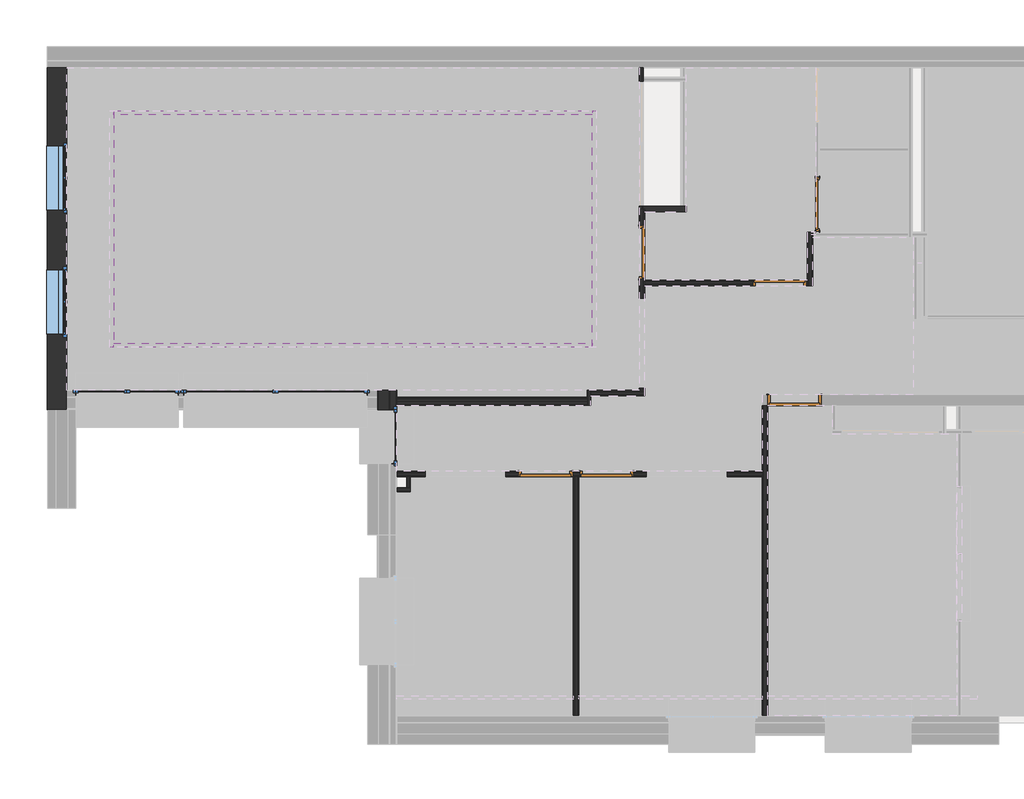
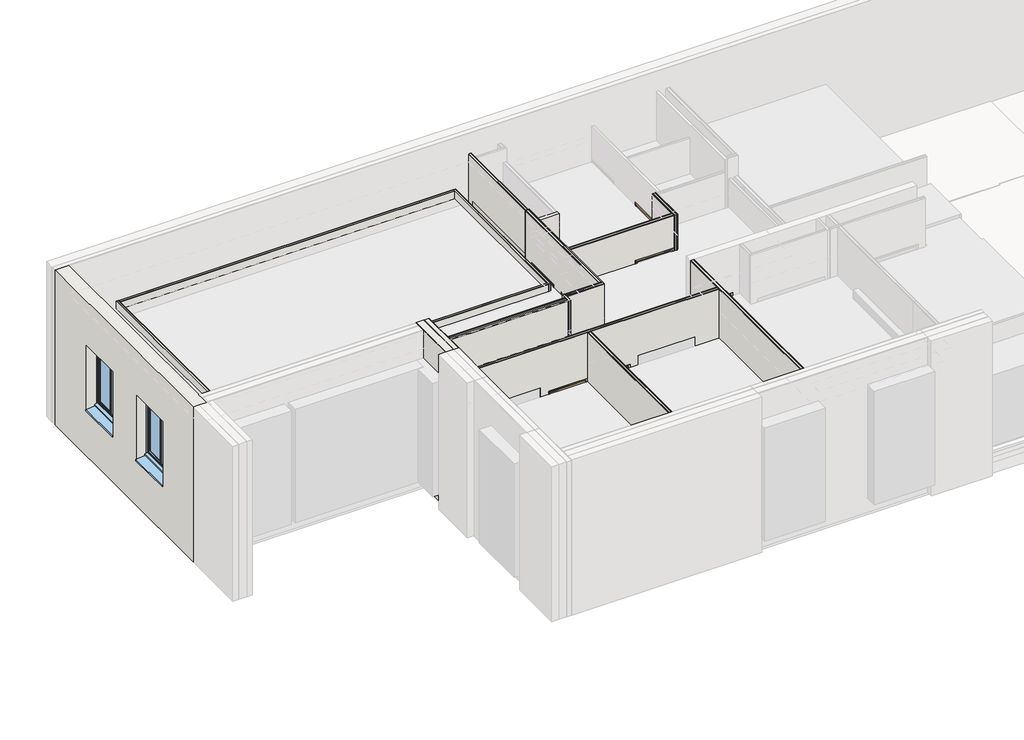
# One storey, part 2 of 8: 19 walls, 6 doors, 5 windows.
"""IFC4 building model written with IfcOpenShell, lengths in millimetres."""

from ifc_helpers import new_model, si_unit, frame, origin, origin_with_axes, place, context, project, spatial, polyline, outline, extrude, faceted_brep, transform, mapped, element, save
from components import door_440ebcd5, door_922e83f1, door_a5923646, door_3187a77a, window_a5bdb8dc, window_71aed64f, window_7f9bbf53, window_433253bf

model = new_model("IFC4")

# Units and contexts
model_context = context("Model", 3, world=origin())
ifc_project = project(units=[si_unit("LENGTHUNIT", "METRE", prefix="MILLI")], contexts=[model_context])

# Site, building, storey
site = spatial("IfcSite", under=ifc_project)
building = spatial("IfcBuilding", under=site)
storey = spatial("IfcBuildingStorey", under=building, Name="0 Mairie RDC 0.00", Elevation=0.0)

# Doors
placement = place(None, origin())
door_shape = door_440ebcd5(model_context)
element("IfcDoor", 1, ObjectType="Portes - Int. Simple - PP (0.89m x 2.04m)", at=placement, inside=storey, context=model_context, shape_type="MappedRepresentation", body=[
    mapped(door_shape, transform((-16975.446161, -8232.7637435, 0.0), x_axis=(1.0, 0.0, 0.0), y_axis=(0.0, 1.0, 0.0), z_axis=(0.0, 0.0, 1.0))),
])
door_2_shape = door_922e83f1(model_context)
element("IfcDoor", 2, ObjectType="Portes - Int. Simple - PP (0.89m x 2.04m) (1)", at=placement, inside=storey, context=model_context, shape_type="MappedRepresentation", body=[
    mapped(door_2_shape, transform((-16111.6269046, -5912.7637435, 0.0), x_axis=(-1.0, 0.0, 0.0), y_axis=(0.0, -1.0, 0.0), z_axis=(0.0, 0.0, 1.0))),
])
element("IfcDoor", 3, ObjectType="Portes - Int. Simple - PP (0.89m x 2.04m) (1)", at=placement, inside=storey, context=model_context, shape_type="MappedRepresentation", body=[
    mapped(door_2_shape, transform((-20457.1562042, -9549.0775347, 0.0), x_axis=(1.0, 0.0, 0.0), y_axis=(0.0, 1.0, 0.0), z_axis=(0.0, 0.0, 1.0))),
])
element("IfcDoor", 4, ObjectType="Portes - Int. Simple - PP (0.89m x 2.04m) (1)", at=placement, inside=storey, context=model_context, shape_type="MappedRepresentation", body=[
    mapped(door_2_shape, transform((-19182.1823363, -5967.7637435, 0.0), x_axis=(0.0, 1.0, 0.0), y_axis=(-1.0, 0.0, 0.0), z_axis=(0.0, 0.0, 1.0))),
])
door_3_shape = door_a5923646(model_context)
element("IfcDoor", 5, ObjectType="Portes - Int. Simple - PP (0.89m x 2.04m) (2)", at=placement, inside=storey, context=model_context, shape_type="MappedRepresentation", body=[
    mapped(door_3_shape, transform((-21517.1562042, -9549.0775347, 0.0), x_axis=(1.0, 0.0, 0.0), y_axis=(0.0, 1.0, 0.0), z_axis=(0.0, 0.0, 1.0))),
])
door_4_shape = door_3187a77a(model_context)
element("IfcDoor", 6, ObjectType="Portes - Int. Simple - PP (0.89m x 2.04m) (4)", at=placement, inside=storey, context=model_context, shape_type="MappedRepresentation", body=[
    mapped(door_4_shape, transform((-16015.9503686, -4004.9219201, 0.0), x_axis=(0.0, -1.0, 0.0), y_axis=(1.0, 0.0, 0.0), z_axis=(0.0, 0.0, 1.0))),
])

# Walls
element("IfcWall", 7, ObjectType="Murs - Mur de base - A Enduit 2 + Béton 20 + vide 1 +  Doublage 13", at=placement, inside=storey, context=model_context, shape_type="Brep", body=[
    faceted_brep([(-24138.2803137, -7953.0211289, 3950.0), (-24138.2803137, -9310.0211289, 3950.0), (-24118.2803137, -9310.0211289, 3950.0), (-24118.2803137, -7953.0211289, 3950.0), (-24138.2803137, -7953.0211289, -400.0), (-24118.2803137, -7953.0211289, -400.0), (-24118.2803137, -9310.0211289, -400.0), (-24138.2803137, -9310.0211289, -400.0), (-24138.2803137, -9310.0211289, 5.5708141), (-24138.2803137, -8310.0211289, 5.5708141), (-24138.2803137, -8310.0211289, 3185.0), (-24138.2803137, -9310.0211289, 3185.0), (-24118.2803137, -9310.0211289, 3185.0), (-24118.2803137, -9310.0211289, 7.6728988), (-24118.2803137, -8310.0211289, 3185.0), (-24118.2803137, -8310.0211289, 7.6728988)], [[[0, 1, 2, 3]], [[4, 5, 6, 7]], [[1, 0, 4, 7, 8, 9, 10, 11]], [[2, 1, 11, 12]], [[7, 6, 13, 8]], [[3, 2, 12, 14, 15, 13, 6, 5]], [[0, 3, 5, 4]], [[10, 14, 12, 11]], [[15, 9, 8, 13]], [[14, 10, 9, 15]]]),
    faceted_brep([(-24118.2803137, -7953.0211289, 3950.0), (-24118.2803137, -9310.0211289, 3950.0), (-23918.2803137, -9310.0211289, 3950.0), (-23918.2803137, -7953.0211289, 3950.0), (-24118.2803137, -7953.0211289, -400.0), (-23918.2803137, -7953.0211289, -400.0), (-23918.2803137, -9310.0211289, -400.0), (-24118.2803137, -9310.0211289, -400.0), (-24118.2803137, -9310.0211289, 7.6728988), (-24118.2803137, -8310.0211289, 7.6728988), (-24118.2803137, -8310.0211289, 3185.0), (-24118.2803137, -9310.0211289, 3185.0), (-23918.2803137, -9310.0211289, 3185.0), (-23918.2803137, -9310.0211289, 28.6937459), (-23918.2803137, -8310.0211289, 3185.0), (-23918.2803137, -8310.0211289, 28.6937459)], [[[0, 1, 2, 3]], [[4, 5, 6, 7]], [[1, 0, 4, 7, 8, 9, 10, 11]], [[2, 1, 11, 12]], [[7, 6, 13, 8]], [[3, 2, 12, 14, 15, 13, 6, 5]], [[0, 3, 5, 4]], [[10, 14, 12, 11]], [[15, 9, 8, 13]], [[14, 10, 9, 15]]]),
    faceted_brep([(-23918.2803137, -7953.0211289, 3950.0), (-23918.2803137, -9310.0211289, 3950.0), (-23908.2803137, -9310.0211289, 3950.0), (-23908.2803137, -7953.0211289, 3950.0), (-23918.2803137, -7953.0211289, -400.0), (-23908.2803137, -7953.0211289, -400.0), (-23908.2803137, -9310.0211289, -400.0), (-23918.2803137, -9310.0211289, -400.0), (-23918.2803137, -9310.0211289, 28.6937459), (-23918.2803137, -8310.0211289, 28.6937459), (-23918.2803137, -8310.0211289, 3185.0), (-23918.2803137, -9310.0211289, 3185.0), (-23908.2803137, -9310.0211289, 3185.0), (-23908.2803137, -9310.0211289, 29.7447882), (-23908.2803137, -8310.0211289, 3185.0), (-23908.2803137, -8310.0211289, 29.7447882)], [[[0, 1, 2, 3]], [[4, 5, 6, 7]], [[1, 0, 4, 7, 8, 9, 10, 11]], [[2, 1, 11, 12]], [[7, 6, 13, 8]], [[3, 2, 12, 14, 15, 13, 6, 5]], [[0, 3, 5, 4]], [[10, 14, 12, 11]], [[15, 9, 8, 13]], [[14, 10, 9, 15]]]),
    faceted_brep([(-23908.2803137, -7953.0211289, 3950.0), (-23908.2803137, -9310.0211289, 3950.0), (-23788.2803137, -9310.0211289, 3950.0), (-23788.2803137, -7953.0211289, 3950.0), (-23908.2803137, -7953.0211289, -400.0), (-23788.2803137, -7953.0211289, -400.0), (-23788.2803137, -9310.0211289, -400.0), (-23908.2803137, -9310.0211289, -400.0), (-23908.2803137, -9310.0211289, 29.7447882), (-23908.2803137, -8310.0211289, 29.7447882), (-23908.2803137, -8310.0211289, 3185.0), (-23908.2803137, -9310.0211289, 3185.0), (-23878.2803137, -9310.0211289, 3185.0), (-23878.2803137, -9310.0211289, 3195.0), (-23828.2803137, -9310.0211289, 3195.0), (-23828.2803137, -9310.0211289, 3235.0), (-23788.2803137, -9310.0211289, 3235.0), (-23788.2803137, -9310.0211289, 35.0), (-23858.2803137, -9310.0211289, 35.0), (-23788.2803137, -8260.0211289, 3235.0), (-23788.2803137, -8260.0211289, 35.0), (-23858.2803137, -8310.0211289, 35.0), (-23828.2803137, -8260.0211289, 35.0), (-23828.2803137, -8300.0211289, 35.0), (-23878.2803137, -8300.0211289, 35.0), (-23878.2803137, -8310.0211289, 35.0), (-23878.2803137, -8310.0211289, 3185.0), (-23828.2803137, -8260.0211289, 3235.0), (-23828.2803137, -8300.0211289, 3195.0), (-23878.2803137, -8300.0211289, 3195.0)], [[[0, 1, 2, 3]], [[4, 5, 6, 7]], [[1, 0, 4, 7, 8, 9, 10, 11]], [[2, 1, 11, 12, 13, 14, 15, 16]], [[7, 6, 17, 18, 8]], [[3, 2, 16, 19, 20, 17, 6, 5]], [[0, 3, 5, 4]], [[21, 18, 17, 20, 22, 23, 24, 25]], [[26, 12, 11, 10]], [[18, 21, 9, 8]], [[23, 22, 27, 15, 14, 28]], [[25, 24, 29, 13, 12, 26]], [[15, 27, 19, 16]], [[29, 28, 14, 13]], [[27, 22, 20, 19]], [[24, 23, 28, 29]], [[21, 25, 26, 10, 9]]]),
    faceted_brep([(-23788.2803137, -7953.0211289, 3950.0), (-23788.2803137, -9310.0211289, 3950.0), (-23778.2803137, -9310.0211289, 3950.0), (-23778.2803137, -7953.0211289, 3950.0), (-23788.2803137, -7953.0211289, -400.0), (-23778.2803137, -7953.0211289, -400.0), (-23778.2803137, -9310.0211289, -400.0), (-23788.2803137, -9310.0211289, -400.0), (-23788.2803137, -9310.0211289, 35.0), (-23788.2803137, -8260.0211289, 35.0), (-23788.2803137, -8260.0211289, 3235.0), (-23788.2803137, -9310.0211289, 3235.0), (-23778.2803137, -9310.0211289, 3235.0), (-23778.2803137, -9310.0211289, 35.0), (-23778.2803137, -8260.0211289, 3235.0), (-23778.2803137, -8260.0211289, 35.0), (-23778.2803137, -8310.0211289, 35.0)], [[[0, 1, 2, 3]], [[4, 5, 6, 7]], [[1, 0, 4, 7, 8, 9, 10, 11]], [[2, 1, 11, 12]], [[7, 6, 13, 8]], [[3, 2, 12, 14, 15, 16, 13, 6, 5]], [[0, 3, 5, 4]], [[15, 9, 8, 13, 16]], [[10, 14, 12, 11]], [[9, 15, 14, 10]]]),
])
element("IfcWall", 8, ObjectType="Murs - Mur de base - A Enduit 2 + Béton 20 + vide 1 +  Doublage 13", at=placement, inside=storey, context=model_context, shape_type="Brep", body=[
    faceted_brep([(-30247.0149756, -1972.7637486, 3950.0), (-30247.0149756, -1972.7637486, -400.0), (-30247.0149756, -8313.0211289, -400.0), (-30247.0149756, -8313.0211289, 3950.0), (-30247.0149756, -3416.9349077, 2700.0), (-30247.0149756, -4616.9349077, 2700.0), (-30247.0149756, -4616.9349077, 870.0), (-30247.0149756, -3416.9349077, 870.0), (-30247.0149756, -5715.7709585, 2700.0), (-30247.0149756, -6915.7709585, 2700.0), (-30247.0149756, -6915.7709585, 870.0), (-30247.0149756, -5715.7709585, 870.0), (-29887.0149756, -1972.7637486, -20.0), (-29887.0149756, -1972.7637486, 3950.0), (-29887.0149756, -7953.0211289, 3950.0), (-29887.0149756, -8313.0211289, 3950.0), (-29887.0149756, -8313.0211289, -400.0), (-29887.0149756, -8083.0211289, -400.0), (-29887.0149756, -8083.0211289, -20.0), (-29887.0149756, -3366.9349077, 2750.0), (-29887.0149756, -3366.9349077, 950.0), (-29887.0149756, -4666.9349077, 950.0), (-29887.0149756, -4666.9349077, 2750.0), (-29887.0149756, -5665.7709585, 2750.0), (-29887.0149756, -5665.7709585, 950.0), (-29887.0149756, -6965.7709585, 950.0), (-29887.0149756, -6965.7709585, 2750.0), (-30243.4832661, -8313.0211289, -400.0), (-30017.0149756, -1972.7637486, -400.0), (-30017.0149756, -8083.0211289, -400.0), (-30243.4832661, -8313.0211289, 3950.0), (-30017.0149756, -1972.7637486, -20.0), (-29987.0149756, -4616.9349077, 950.0), (-29967.0149756, -4616.9349077, 950.0), (-29967.0149756, -4616.9349077, 870.0), (-29987.0149756, -4616.9349077, 2700.0), (-29967.0149756, -3416.9349077, 870.0), (-29967.0149756, -3416.9349077, 950.0), (-29987.0149756, -3416.9349077, 950.0), (-29987.0149756, -3416.9349077, 2700.0), (-29987.0149756, -4626.9349077, 950.0), (-29957.0149756, -4626.9349077, 950.0), (-29957.0149756, -4666.9349077, 950.0), (-29957.0149756, -3366.9349077, 950.0), (-29957.0149756, -3406.9349077, 950.0), (-29987.0149756, -3406.9349077, 950.0), (-29957.0149756, -4666.9349077, 2750.0), (-29957.0149756, -4626.9349077, 2710.0), (-29957.0149756, -3406.9349077, 2710.0), (-29957.0149756, -3366.9349077, 2750.0), (-29987.0149756, -4626.9349077, 2710.0), (-29987.0149756, -3406.9349077, 2710.0), (-29987.0149756, -6915.7709585, 950.0), (-29967.0149756, -6915.7709585, 950.0), (-29967.0149756, -6915.7709585, 870.0), (-29987.0149756, -6915.7709585, 2700.0), (-29967.0149756, -5715.7709585, 870.0), (-29967.0149756, -5715.7709585, 950.0), (-29987.0149756, -5715.7709585, 950.0), (-29987.0149756, -5715.7709585, 2700.0), (-29987.0149756, -6925.7709585, 950.0), (-29957.0149756, -6925.7709585, 950.0), (-29957.0149756, -6965.7709585, 950.0), (-29957.0149756, -5665.7709585, 950.0), (-29957.0149756, -5705.7709585, 950.0), (-29987.0149756, -5705.7709585, 950.0), (-29957.0149756, -6965.7709585, 2750.0), (-29957.0149756, -6925.7709585, 2710.0), (-29957.0149756, -5705.7709585, 2710.0), (-29957.0149756, -5665.7709585, 2750.0), (-29987.0149756, -6925.7709585, 2710.0), (-29987.0149756, -5705.7709585, 2710.0), (-30017.0149756, -8083.0211289, -20.0)], [[[0, 1, 2, 3], [4, 5, 6, 7], [8, 9, 10, 11]], [[12, 13, 14, 15, 16, 17, 18], [19, 20, 21, 22], [23, 24, 25, 26]], [[27, 2, 1, 28, 29, 17, 16]], [[13, 0, 3, 30, 15, 14]], [[30, 3, 2, 27, 16, 15]], [[28, 1, 0, 13, 12, 31]], [[32, 33, 34, 6, 5, 35]], [[7, 36, 37, 38, 39, 4]], [[7, 6, 34, 36]], [[36, 34, 33, 37]], [[39, 35, 5, 4]], [[37, 33, 32, 40, 41, 42, 21, 20, 43, 44, 45, 38]], [[22, 21, 42, 46]], [[46, 42, 41, 47, 48, 44, 43, 49]], [[47, 41, 40, 50]], [[40, 32, 35, 39, 38, 45, 51, 50]], [[19, 22, 46, 49]], [[51, 48, 47, 50]], [[49, 43, 20, 19]], [[51, 45, 44, 48]], [[52, 53, 54, 10, 9, 55]], [[11, 56, 57, 58, 59, 8]], [[11, 10, 54, 56]], [[56, 54, 53, 57]], [[59, 55, 9, 8]], [[57, 53, 52, 60, 61, 62, 25, 24, 63, 64, 65, 58]], [[26, 25, 62, 66]], [[66, 62, 61, 67, 68, 64, 63, 69]], [[67, 61, 60, 70]], [[60, 52, 55, 59, 58, 65, 71, 70]], [[23, 26, 66, 69]], [[71, 68, 67, 70]], [[69, 63, 24, 23]], [[71, 65, 64, 68]], [[12, 18, 72, 31]], [[29, 72, 18, 17]], [[28, 31, 72, 29]]]),
])
element("IfcWall", 9, ObjectType="Murs - Mur de base - A cloison placostil 98 sèche", at=placement, inside=storey, context=model_context, shape_type="SweptSolid", body=[
    extrude(outline(polyline([(-16166.6269046, -6012.7637435), (-16166.6269046, -5019.9219201), (-16154.1269046, -5019.9219201), (-16154.1269046, -6012.7637435), (-16166.6269046, -6012.7637435)])), origin_with_axes(), (0.0, 0.0, 1.0), 3000.0),
    extrude(outline(polyline([(-16154.1269046, -6012.7637435), (-16154.1269046, -5019.9219201), (-16141.6269046, -5019.9219201), (-16141.6269046, -6012.7637435), (-16154.1269046, -6012.7637435)])), origin_with_axes(), (0.0, 0.0, 1.0), 3000.0),
    extrude(outline(polyline([(-16141.6269046, -6012.7637435), (-16141.6269046, -5019.9219201), (-16091.6269046, -5019.9219201), (-16091.6269046, -6012.7637435), (-16141.6269046, -6012.7637435)])), origin_with_axes(), (0.0, 0.0, 1.0), 3000.0),
    extrude(outline(polyline([(-16091.6269046, -6012.7637435), (-16091.6269046, -5019.9219201), (-16079.1269046, -5019.9219201), (-16079.1269046, -6012.7637435), (-16091.6269046, -6012.7637435)])), origin_with_axes(), (0.0, 0.0, 1.0), 3000.0),
    extrude(outline(polyline([(-16079.1269046, -6012.7637435), (-16079.1269046, -5019.9219201), (-16066.6269046, -5019.9219201), (-16066.6269046, -6012.7637435), (-16079.1269046, -6012.7637435)])), origin_with_axes(), (0.0, 0.0, 1.0), 3000.0),
])
element("IfcWall", 10, ObjectType="Murs - Mur de base - A cloison placostil 98 sèche", at=placement, inside=storey, context=model_context, shape_type="SweptSolid", body=[
    extrude(outline(polyline([(3000.0, -16166.6269046), (3000.0, -19182.1823363), (0.0, -19182.1823363), (0.0, -17181.6269046), (2075.0, -17181.6269046), (2075.0, -16181.6269046), (0.0, -16181.6269046), (0.0, -16166.6269046), (3000.0, -16166.6269046)])), frame((0.0, -6012.7637435, 0.0), z_axis=(0.0, 1.0, 0.0), x_axis=(0.0, 0.0, 1.0)), (0.0, 0.0, 1.0), 12.5),
    extrude(outline(polyline([(3000.0, -16166.6269046), (3000.0, -19182.1823363), (0.0, -19182.1823363), (0.0, -17181.6269046), (2075.0, -17181.6269046), (2075.0, -16181.6269046), (0.0, -16181.6269046), (0.0, -16166.6269046), (3000.0, -16166.6269046)])), frame((0.0, -6000.2637435, 0.0), z_axis=(0.0, 1.0, 0.0), x_axis=(0.0, 0.0, 1.0)), (0.0, 0.0, 1.0), 12.5),
    extrude(outline(polyline([(3000.0, -16166.6269046), (3000.0, -19182.1823363), (0.0, -19182.1823363), (0.0, -17181.6269046), (2075.0, -17181.6269046), (2075.0, -16181.6269046), (0.0, -16181.6269046), (0.0, -16166.6269046), (3000.0, -16166.6269046)])), frame((0.0, -5987.7637435, 0.0), z_axis=(0.0, 1.0, 0.0), x_axis=(0.0, 0.0, 1.0)), (0.0, 0.0, 1.0), 50.0),
    extrude(outline(polyline([(3000.0, -16166.6269046), (3000.0, -19182.1823363), (0.0, -19182.1823363), (0.0, -17181.6269046), (2075.0, -17181.6269046), (2075.0, -16181.6269046), (0.0, -16181.6269046), (0.0, -16166.6269046), (3000.0, -16166.6269046)])), frame((0.0, -5937.7637435, 0.0), z_axis=(0.0, 1.0, 0.0), x_axis=(0.0, 0.0, 1.0)), (0.0, 0.0, 1.0), 12.5),
    extrude(outline(polyline([(3000.0, -16166.6269046), (3000.0, -19182.1823363), (0.0, -19182.1823363), (0.0, -17181.6269046), (2075.0, -17181.6269046), (2075.0, -16181.6269046), (0.0, -16181.6269046), (0.0, -16166.6269046), (3000.0, -16166.6269046)])), frame((0.0, -5925.2637435, 0.0), z_axis=(0.0, 1.0, 0.0), x_axis=(0.0, 0.0, 1.0)), (0.0, 0.0, 1.0), 12.5),
])
element("IfcWall", 11, ObjectType="Murs - Mur de base - A cloison placostil 72 sèche", at=placement, inside=storey, context=model_context, shape_type="SweptSolid", body=[
    extrude(outline(polyline([(-4593.7637486, 3370.0), (-1972.7637486, 3370.0), (-1972.7637486, 0.0), (-2222.7637486, 0.0), (-2222.7637486, 2100.0), (-4542.7637486, 2100.0), (-4542.7637486, 0.0), (-4593.7637486, 0.0), (-4593.7637486, 3370.0)])), frame((-19222.1823363, 0.0, 0.0), z_axis=(1.0, 0.0, 0.0), x_axis=(0.0, 1.0, 0.0)), (0.0, 0.0, 1.0), 10.0),
    extrude(outline(polyline([(-4593.7637486, 3370.0), (-1972.7637486, 3370.0), (-1972.7637486, 0.0), (-2222.7637486, 0.0), (-2222.7637486, 2100.0), (-4542.7637486, 2100.0), (-4542.7637486, 0.0), (-4593.7637486, 0.0), (-4593.7637486, 3370.0)])), frame((-19272.1823363, 0.0, 0.0), z_axis=(1.0, 0.0, 0.0), x_axis=(0.0, 1.0, 0.0)), (0.0, 0.0, 1.0), 50.0),
    extrude(outline(polyline([(-4593.7637486, 3370.0), (-1972.7637486, 3370.0), (-1972.7637486, 0.0), (-2222.7637486, 0.0), (-2222.7637486, 2100.0), (-4542.7637486, 2100.0), (-4542.7637486, 0.0), (-4593.7637486, 0.0), (-4593.7637486, 3370.0)])), frame((-19282.1823363, 0.0, 0.0), z_axis=(1.0, 0.0, 0.0), x_axis=(0.0, 1.0, 0.0)), (0.0, 0.0, 1.0), 10.0),
])
element("IfcWall", 12, ObjectType="Murs - Mur de base - A cloison placostil 98 sèche", at=placement, inside=storey, context=model_context, shape_type="SweptSolid", body=[
    extrude(outline(polyline([(-20176.3913721, -7952.7608719), (-19182.1823363, -7952.7608719), (-19182.1823363, -7965.2608719), (-20176.3913721, -7965.2608719), (-20176.3913721, -7952.7608719)])), origin_with_axes(), (0.0, 0.0, 1.0), 3370.0),
    extrude(outline(polyline([(-20176.3913721, -7965.2608719), (-19182.1823363, -7965.2608719), (-19182.1823363, -7977.7608719), (-20176.3913721, -7977.7608719), (-20176.3913721, -7965.2608719)])), origin_with_axes(), (0.0, 0.0, 1.0), 3370.0),
    extrude(outline(polyline([(-20176.3913721, -7977.7608719), (-19182.1823363, -7977.7608719), (-19182.1823363, -8027.7608719), (-20176.3913721, -8027.7608719), (-20176.3913721, -7977.7608719)])), origin_with_axes(), (0.0, 0.0, 1.0), 3370.0),
    extrude(outline(polyline([(-20176.3913721, -8027.7608719), (-19182.1823363, -8027.7608719), (-19182.1823363, -8040.2608719), (-20176.3913721, -8040.2608719), (-20176.3913721, -8027.7608719)])), origin_with_axes(), (0.0, 0.0, 1.0), 3370.0),
    extrude(outline(polyline([(-20176.3913721, -8040.2608719), (-19182.1823363, -8040.2608719), (-19182.1823363, -8052.7608719), (-20176.3913721, -8052.7608719), (-20176.3913721, -8040.2608719)])), origin_with_axes(), (0.0, 0.0, 1.0), 3370.0),
])
element("IfcWall", 13, ObjectType="Murs - Mur de base - A cloison placostil 72 sèche", at=placement, inside=storey, context=model_context, shape_type="SweptSolid", body=[
    extrude(outline(polyline([(-20246.3913721, -7952.7608719), (-20236.3913721, -7952.7608719), (-20236.3913721, -8230.3569594), (-20246.3913721, -8230.3569594), (-20246.3913721, -7952.7608719)])), origin_with_axes(), (0.0, 0.0, 1.0), 3370.0),
    extrude(outline(polyline([(-20236.3913721, -7952.7608719), (-20186.3913721, -7952.7608719), (-20186.3913721, -8230.3569594), (-20236.3913721, -8230.3569594), (-20236.3913721, -7952.7608719)])), origin_with_axes(), (0.0, 0.0, 1.0), 3370.0),
    extrude(outline(polyline([(-20186.3913721, -7952.7608719), (-20176.3913721, -7952.7608719), (-20176.3913721, -8230.3569594), (-20186.3913721, -8230.3569594), (-20186.3913721, -7952.7608719)])), origin_with_axes(), (0.0, 0.0, 1.0), 3370.0),
])
element("IfcWall", 14, ObjectType="Murs - Mur de base - A cloison placostil 72 sèche", at=placement, inside=storey, context=model_context, shape_type="SweptSolid", body=[
    extrude(outline(polyline([(-23778.2803137, -9829.2788136), (-23778.2803137, -9819.2788136), (-23520.6325674, -9819.2788136), (-23520.6325674, -9829.2788136), (-23778.2803137, -9829.2788136)])), origin_with_axes(), (0.0, 0.0, 1.0), 3370.0),
    extrude(outline(polyline([(-23778.2803137, -9819.2788136), (-23778.2803137, -9769.2788136), (-23520.6325674, -9769.2788136), (-23520.6325674, -9819.2788136), (-23778.2803137, -9819.2788136)])), origin_with_axes(), (0.0, 0.0, 1.0), 3370.0),
    extrude(outline(polyline([(-23778.2803137, -9769.2788136), (-23778.2803137, -9759.2788136), (-23520.6325674, -9759.2788136), (-23520.6325674, -9769.2788136), (-23778.2803137, -9769.2788136)])), origin_with_axes(), (0.0, 0.0, 1.0), 3370.0),
])
element("IfcWall", 15, ObjectType="Murs - Mur de base - A cloison placostil 72 sèche", at=placement, inside=storey, context=model_context, shape_type="SweptSolid", body=[
    extrude(outline(polyline([(-23520.6325674, -9759.2788136), (-23530.6325674, -9759.2788136), (-23530.6325674, -9549.0775347), (-23520.6325674, -9549.0775347), (-23520.6325674, -9759.2788136)])), origin_with_axes(), (0.0, 0.0, 1.0), 3370.0),
    extrude(outline(polyline([(-23530.6325674, -9759.2788136), (-23580.6325674, -9759.2788136), (-23580.6325674, -9549.0775347), (-23530.6325674, -9549.0775347), (-23530.6325674, -9759.2788136)])), origin_with_axes(), (0.0, 0.0, 1.0), 3370.0),
    extrude(outline(polyline([(-23580.6325674, -9759.2788136), (-23590.6325674, -9759.2788136), (-23590.6325674, -9549.0775347), (-23580.6325674, -9549.0775347), (-23580.6325674, -9759.2788136)])), origin_with_axes(), (0.0, 0.0, 1.0), 3370.0),
])
element("IfcWall", 16, ObjectType="Murs - Mur de base - A cloison placostil 140 sèche", at=placement, inside=storey, context=model_context, shape_type="SweptSolid", body=[
    extrude(outline(polyline([(-23778.2803137, -8080.3569594), (-20246.3913721, -8080.3569594), (-20246.3913721, -8092.8569594), (-23778.2803137, -8092.8569594), (-23778.2803137, -8080.3569594)])), origin_with_axes(), (0.0, 0.0, 1.0), 3370.0),
    extrude(outline(polyline([(-23778.2803137, -8092.8569594), (-20246.3913721, -8092.8569594), (-20246.3913721, -8105.3569594), (-23778.2803137, -8105.3569594), (-23778.2803137, -8092.8569594)])), origin_with_axes(), (0.0, 0.0, 1.0), 3370.0),
    extrude(outline(polyline([(-23778.2803137, -8105.3569594), (-20246.3913721, -8105.3569594), (-20246.3913721, -8155.3569594), (-23778.2803137, -8155.3569594), (-23778.2803137, -8105.3569594)])), origin_with_axes(), (0.0, 0.0, 1.0), 3370.0),
    extrude(outline(polyline([(-23778.2803137, -8155.3569594), (-20246.3913721, -8155.3569594), (-20246.3913721, -8205.3569594), (-23778.2803137, -8205.3569594), (-23778.2803137, -8155.3569594)])), origin_with_axes(), (0.0, 0.0, 1.0), 3370.0),
    extrude(outline(polyline([(-23778.2803137, -8205.3569594), (-20246.3913721, -8205.3569594), (-20246.3913721, -8217.8569594), (-23778.2803137, -8217.8569594), (-23778.2803137, -8205.3569594)])), origin_with_axes(), (0.0, 0.0, 1.0), 3370.0),
    extrude(outline(polyline([(-23778.2803137, -8217.8569594), (-20246.3913721, -8217.8569594), (-20246.3913721, -8230.3569594), (-23778.2803137, -8230.3569594), (-23778.2803137, -8217.8569594)])), origin_with_axes(), (0.0, 0.0, 1.0), 3370.0),
])
element("IfcWall", 17, ObjectType="Murs - Mur de base - A cloison placostil 98 sèche", at=placement, inside=storey, context=model_context, shape_type="SweptSolid", body=[
    extrude(outline(polyline([(-20502.1562042, -13978.5662223), (-20502.1562042, -9549.0775347), (-20489.6562042, -9549.0775347), (-20489.6562042, -13978.5662223), (-20502.1562042, -13978.5662223)])), origin_with_axes(), (0.0, 0.0, 1.0), 3370.0),
    extrude(outline(polyline([(-20489.6562042, -13978.5662223), (-20489.6562042, -9549.0775347), (-20477.1562042, -9549.0775347), (-20477.1562042, -13978.5662223), (-20489.6562042, -13978.5662223)])), origin_with_axes(), (0.0, 0.0, 1.0), 3370.0),
    extrude(outline(polyline([(-20477.1562042, -13978.5662223), (-20477.1562042, -9549.0775347), (-20427.1562042, -9549.0775347), (-20427.1562042, -13978.5662223), (-20477.1562042, -13978.5662223)])), origin_with_axes(), (0.0, 0.0, 1.0), 3370.0),
    extrude(outline(polyline([(-20427.1562042, -13978.5662223), (-20427.1562042, -9549.0775347), (-20414.6562042, -9549.0775347), (-20414.6562042, -13978.5662223), (-20427.1562042, -13978.5662223)])), origin_with_axes(), (0.0, 0.0, 1.0), 3370.0),
    extrude(outline(polyline([(-20414.6562042, -13978.5662223), (-20414.6562042, -9549.0775347), (-20402.1562042, -9549.0775347), (-20402.1562042, -13978.5662223), (-20414.6562042, -13978.5662223)])), origin_with_axes(), (0.0, 0.0, 1.0), 3370.0),
])
element("IfcWall", 18, ObjectType="Murs - Mur de base - A cloison placostil 98 sèche", at=placement, inside=storey, context=model_context, shape_type="SweptSolid", body=[
    extrude(outline(polyline([(-17005.446161, -13978.5662223), (-17005.446161, -8232.7637435), (-16992.946161, -8232.7637435), (-16992.946161, -13978.5662223), (-17005.446161, -13978.5662223)])), origin_with_axes(), (0.0, 0.0, 1.0), 3370.0),
    extrude(outline(polyline([(-16992.946161, -13978.5662223), (-16992.946161, -8232.7637435), (-16980.446161, -8232.7637435), (-16980.446161, -13978.5662223), (-16992.946161, -13978.5662223)])), origin_with_axes(), (0.0, 0.0, 1.0), 3370.0),
    extrude(outline(polyline([(-16980.446161, -13978.5662223), (-16980.446161, -8232.7637435), (-16930.446161, -8232.7637435), (-16930.446161, -13978.5662223), (-16980.446161, -13978.5662223)])), origin_with_axes(), (0.0, 0.0, 1.0), 3370.0),
    extrude(outline(polyline([(-16930.446161, -13978.5662223), (-16930.446161, -8232.7637435), (-16917.946161, -8232.7637435), (-16917.946161, -13978.5662223), (-16930.446161, -13978.5662223)])), origin_with_axes(), (0.0, 0.0, 1.0), 3370.0),
    extrude(outline(polyline([(-16917.946161, -13978.5662223), (-16917.946161, -8232.7637435), (-16905.446161, -8232.7637435), (-16905.446161, -13978.5662223), (-16917.946161, -13978.5662223)])), origin_with_axes(), (0.0, 0.0, 1.0), 3370.0),
])
element("IfcWall", 19, ObjectType="Murs - Mur de base - A cloison placostil 98 sèche", at=placement, inside=storey, context=model_context, shape_type="SweptSolid", body=[
    extrude(outline(polyline([(3370.0, -17005.446161), (3370.0, -23778.2803137), (0.0, -23778.2803137), (0.0, -21517.1562042), (2075.0, -21517.1562042), (2075.0, -20517.1562042), (0.0, -20517.1562042), (0.0, -20387.1562042), (2075.0, -20387.1562042), (2075.0, -19387.1562042), (0.0, -19387.1562042), (0.0, -17005.446161), (3370.0, -17005.446161)]), holes=[polyline([(2250.0, -17647.7536837), (1000.0, -17647.7536837), (1000.0, -19147.7536837), (2250.0, -19147.7536837), (2250.0, -17647.7536837)]), polyline([(2250.0, -21750.7759366), (1000.0, -21750.7759366), (1000.0, -23250.7759366), (2250.0, -23250.7759366), (2250.0, -21750.7759366)])]), frame((0.0, -9461.5775347, 0.0), z_axis=(0.0, 1.0, 0.0), x_axis=(0.0, 0.0, 1.0)), (0.0, 0.0, 1.0), 12.5),
    extrude(outline(polyline([(3370.0, -17005.446161), (3370.0, -23778.2803137), (0.0, -23778.2803137), (0.0, -21517.1562042), (2075.0, -21517.1562042), (2075.0, -20517.1562042), (0.0, -20517.1562042), (0.0, -20387.1562042), (2075.0, -20387.1562042), (2075.0, -19387.1562042), (0.0, -19387.1562042), (0.0, -17005.446161), (3370.0, -17005.446161)]), holes=[polyline([(2250.0, -17647.7536837), (1000.0, -17647.7536837), (1000.0, -19147.7536837), (2250.0, -19147.7536837), (2250.0, -17647.7536837)]), polyline([(2250.0, -21750.7759366), (1000.0, -21750.7759366), (1000.0, -23250.7759366), (2250.0, -23250.7759366), (2250.0, -21750.7759366)])]), frame((0.0, -9474.0775347, 0.0), z_axis=(0.0, 1.0, 0.0), x_axis=(0.0, 0.0, 1.0)), (0.0, 0.0, 1.0), 12.5),
    extrude(outline(polyline([(3370.0, -17005.446161), (3370.0, -23778.2803137), (0.0, -23778.2803137), (0.0, -21517.1562042), (2075.0, -21517.1562042), (2075.0, -20517.1562042), (0.0, -20517.1562042), (0.0, -20387.1562042), (2075.0, -20387.1562042), (2075.0, -19387.1562042), (0.0, -19387.1562042), (0.0, -17005.446161), (3370.0, -17005.446161)]), holes=[polyline([(2250.0, -17647.7536837), (1000.0, -17647.7536837), (1000.0, -19147.7536837), (2250.0, -19147.7536837), (2250.0, -17647.7536837)]), polyline([(2250.0, -21750.7759366), (1000.0, -21750.7759366), (1000.0, -23250.7759366), (2250.0, -23250.7759366), (2250.0, -21750.7759366)])]), frame((0.0, -9524.0775347, 0.0), z_axis=(0.0, 1.0, 0.0), x_axis=(0.0, 0.0, 1.0)), (0.0, 0.0, 1.0), 50.0),
    extrude(outline(polyline([(3370.0, -17005.446161), (3370.0, -23778.2803137), (0.0, -23778.2803137), (0.0, -21517.1562042), (2075.0, -21517.1562042), (2075.0, -20517.1562042), (0.0, -20517.1562042), (0.0, -20387.1562042), (2075.0, -20387.1562042), (2075.0, -19387.1562042), (0.0, -19387.1562042), (0.0, -17005.446161), (3370.0, -17005.446161)]), holes=[polyline([(2250.0, -17647.7536837), (1000.0, -17647.7536837), (1000.0, -19147.7536837), (2250.0, -19147.7536837), (2250.0, -17647.7536837)]), polyline([(2250.0, -21750.7759366), (1000.0, -21750.7759366), (1000.0, -23250.7759366), (2250.0, -23250.7759366), (2250.0, -21750.7759366)])]), frame((0.0, -9536.5775347, 0.0), z_axis=(0.0, 1.0, 0.0), x_axis=(0.0, 0.0, 1.0)), (0.0, 0.0, 1.0), 12.5),
    extrude(outline(polyline([(3370.0, -17005.446161), (3370.0, -23778.2803137), (0.0, -23778.2803137), (0.0, -21517.1562042), (2075.0, -21517.1562042), (2075.0, -20517.1562042), (0.0, -20517.1562042), (0.0, -20387.1562042), (2075.0, -20387.1562042), (2075.0, -19387.1562042), (0.0, -19387.1562042), (0.0, -17005.446161), (3370.0, -17005.446161)]), holes=[polyline([(2250.0, -17647.7536837), (1000.0, -17647.7536837), (1000.0, -19147.7536837), (2250.0, -19147.7536837), (2250.0, -17647.7536837)]), polyline([(2250.0, -21750.7759366), (1000.0, -21750.7759366), (1000.0, -23250.7759366), (2250.0, -23250.7759366), (2250.0, -21750.7759366)])]), frame((0.0, -9549.0775347, 0.0), z_axis=(0.0, 1.0, 0.0), x_axis=(0.0, 0.0, 1.0)), (0.0, 0.0, 1.0), 12.5),
])
element("IfcWall", 20, ObjectType="Murs - Mur de base - A cloison placostil 98 sèche", at=placement, inside=storey, context=model_context, shape_type="SweptSolid", body=[
    extrude(outline(polyline([(-7952.7608719, 3370.0), (-4593.7637486, 3370.0), (-4593.7637486, 0.0), (-4897.7637435, 0.0), (-4897.7637435, 2075.0), (-5897.7637435, 2075.0), (-5897.7637435, 0.0), (-6244.4612155, 0.0), (-6244.4612155, 2075.0), (-7914.4612155, 2075.0), (-7914.4612155, 0.0), (-7952.7608719, 0.0), (-7952.7608719, 3370.0)])), frame((-19194.6823363, 0.0, 0.0), z_axis=(1.0, 0.0, 0.0), x_axis=(0.0, 1.0, 0.0)), (0.0, 0.0, 1.0), 12.5),
    extrude(outline(polyline([(-7952.7608719, 3370.0), (-4593.7637486, 3370.0), (-4593.7637486, 0.0), (-4897.7637435, 0.0), (-4897.7637435, 2075.0), (-5897.7637435, 2075.0), (-5897.7637435, 0.0), (-6244.4612155, 0.0), (-6244.4612155, 2075.0), (-7914.4612155, 2075.0), (-7914.4612155, 0.0), (-7952.7608719, 0.0), (-7952.7608719, 3370.0)])), frame((-19207.1823363, 0.0, 0.0), z_axis=(1.0, 0.0, 0.0), x_axis=(0.0, 1.0, 0.0)), (0.0, 0.0, 1.0), 12.5),
    extrude(outline(polyline([(-7952.7608719, 3370.0), (-4593.7637486, 3370.0), (-4593.7637486, 0.0), (-4897.7637435, 0.0), (-4897.7637435, 2075.0), (-5897.7637435, 2075.0), (-5897.7637435, 0.0), (-6244.4612155, 0.0), (-6244.4612155, 2075.0), (-7914.4612155, 2075.0), (-7914.4612155, 0.0), (-7952.7608719, 0.0), (-7952.7608719, 3370.0)])), frame((-19257.1823363, 0.0, 0.0), z_axis=(1.0, 0.0, 0.0), x_axis=(0.0, 1.0, 0.0)), (0.0, 0.0, 1.0), 50.0),
    extrude(outline(polyline([(-7952.7608719, 3370.0), (-4593.7637486, 3370.0), (-4593.7637486, 0.0), (-4897.7637435, 0.0), (-4897.7637435, 2075.0), (-5897.7637435, 2075.0), (-5897.7637435, 0.0), (-6244.4612155, 0.0), (-6244.4612155, 2075.0), (-7914.4612155, 2075.0), (-7914.4612155, 0.0), (-7952.7608719, 0.0), (-7952.7608719, 3370.0)])), frame((-19269.6823363, 0.0, 0.0), z_axis=(1.0, 0.0, 0.0), x_axis=(0.0, 1.0, 0.0)), (0.0, 0.0, 1.0), 12.5),
    extrude(outline(polyline([(-7952.7608719, 3370.0), (-4593.7637486, 3370.0), (-4593.7637486, 0.0), (-4897.7637435, 0.0), (-4897.7637435, 2075.0), (-5897.7637435, 2075.0), (-5897.7637435, 0.0), (-6244.4612155, 0.0), (-6244.4612155, 2075.0), (-7914.4612155, 2075.0), (-7914.4612155, 0.0), (-7952.7608719, 0.0), (-7952.7608719, 3370.0)])), frame((-19282.1823363, 0.0, 0.0), z_axis=(1.0, 0.0, 0.0), x_axis=(0.0, 1.0, 0.0)), (0.0, 0.0, 1.0), 12.5),
])
element("IfcWall", 21, ObjectType="Murs - Mur de base - A cloison placostil 98 sèche", at=placement, inside=storey, context=model_context, shape_type="SweptSolid", body=[
    extrude(outline(polyline([(-18412.1823363, -4643.7637486), (-19182.1823363, -4643.7637486), (-19182.1823363, -4593.7637486), (-19212.1823363, -4593.7637486), (-19212.1823363, -4543.7637486), (-18512.1823363, -4543.7637486), (-18412.1823363, -4543.7637486), (-18412.1823363, -4643.7637486)])), origin_with_axes(), (0.0, 0.0, 1.0), 3000.0),
])
element("IfcWall", 22, ObjectType="Murs - Mur de base - A cloison placostil 72 sèche", at=placement, inside=storey, context=model_context, shape_type="SweptSolid", body=[
    extrude(outline(polyline([(-20082.1823363, -7153.0211289), (-20092.1823363, -7153.0211289), (-20092.1823363, -2772.7637486), (-20082.1823363, -2772.7637486), (-20082.1823363, -7153.0211289)])), frame((0.0, 0.0, 2950.0), z_axis=(0.0, 0.0, 1.0), x_axis=(1.0, 0.0, 0.0)), (0.0, 0.0, 1.0), 200.0),
    extrude(outline(polyline([(-20092.1823363, -7153.0211289), (-20142.1823363, -7153.0211289), (-20142.1823363, -2772.7637486), (-20092.1823363, -2772.7637486), (-20092.1823363, -7153.0211289)])), frame((0.0, 0.0, 2950.0), z_axis=(0.0, 0.0, 1.0), x_axis=(1.0, 0.0, 0.0)), (0.0, 0.0, 1.0), 200.0),
    extrude(outline(polyline([(-20142.1823363, -7153.0211289), (-20152.1823363, -7153.0211289), (-20152.1823363, -2772.7637486), (-20142.1823363, -2772.7637486), (-20142.1823363, -7153.0211289)])), frame((0.0, 0.0, 2950.0), z_axis=(0.0, 0.0, 1.0), x_axis=(1.0, 0.0, 0.0)), (0.0, 0.0, 1.0), 200.0),
])
element("IfcWall", 23, ObjectType="Murs - Mur de base - A cloison placostil 72 sèche", at=placement, inside=storey, context=model_context, shape_type="SweptSolid", body=[
    extrude(outline(polyline([(-29017.0149756, -7153.0211289), (-29027.0149756, -7153.0211289), (-29027.0149756, -2772.7637486), (-29017.0149756, -2772.7637486), (-29017.0149756, -7153.0211289)])), frame((0.0, 0.0, 2950.0), z_axis=(0.0, 0.0, 1.0), x_axis=(1.0, 0.0, 0.0)), (0.0, 0.0, 1.0), 200.0),
    extrude(outline(polyline([(-29027.0149756, -7153.0211289), (-29077.0149756, -7153.0211289), (-29077.0149756, -2772.7637486), (-29027.0149756, -2772.7637486), (-29027.0149756, -7153.0211289)])), frame((0.0, 0.0, 2950.0), z_axis=(0.0, 0.0, 1.0), x_axis=(1.0, 0.0, 0.0)), (0.0, 0.0, 1.0), 200.0),
    extrude(outline(polyline([(-29077.0149756, -7153.0211289), (-29087.0149756, -7153.0211289), (-29087.0149756, -2772.7637486), (-29077.0149756, -2772.7637486), (-29077.0149756, -7153.0211289)])), frame((0.0, 0.0, 2950.0), z_axis=(0.0, 0.0, 1.0), x_axis=(1.0, 0.0, 0.0)), (0.0, 0.0, 1.0), 200.0),
])
element("IfcWall", 24, ObjectType="Murs - Mur de base - A cloison placostil 72 sèche", at=placement, inside=storey, context=model_context, shape_type="SweptSolid", body=[
    extrude(outline(polyline([(-29017.0149756, -7153.0211289), (-29017.0149756, -7143.0211289), (-20152.1823363, -7143.0211289), (-20152.1823363, -7153.0211289), (-29017.0149756, -7153.0211289)])), frame((0.0, 0.0, 2950.0), z_axis=(0.0, 0.0, 1.0), x_axis=(1.0, 0.0, 0.0)), (0.0, 0.0, 1.0), 200.0),
    extrude(outline(polyline([(-29017.0149756, -7143.0211289), (-29017.0149756, -7093.0211289), (-20152.1823363, -7093.0211289), (-20152.1823363, -7143.0211289), (-29017.0149756, -7143.0211289)])), frame((0.0, 0.0, 2950.0), z_axis=(0.0, 0.0, 1.0), x_axis=(1.0, 0.0, 0.0)), (0.0, 0.0, 1.0), 200.0),
    extrude(outline(polyline([(-29017.0149756, -7093.0211289), (-29017.0149756, -7083.0211289), (-20152.1823363, -7083.0211289), (-20152.1823363, -7093.0211289), (-29017.0149756, -7093.0211289)])), frame((0.0, 0.0, 2950.0), z_axis=(0.0, 0.0, 1.0), x_axis=(1.0, 0.0, 0.0)), (0.0, 0.0, 1.0), 200.0),
])
element("IfcWall", 25, ObjectType="Murs - Mur de base - A cloison placostil 72 sèche", at=placement, inside=storey, context=model_context, shape_type="SweptSolid", body=[
    extrude(outline(polyline([(-29017.0149756, -2842.7637486), (-29017.0149756, -2832.7637486), (-20152.1823363, -2832.7637486), (-20152.1823363, -2842.7637486), (-29017.0149756, -2842.7637486)])), frame((0.0, 0.0, 2950.0), z_axis=(0.0, 0.0, 1.0), x_axis=(1.0, 0.0, 0.0)), (0.0, 0.0, 1.0), 200.0),
    extrude(outline(polyline([(-29017.0149756, -2832.7637486), (-29017.0149756, -2782.7637486), (-20152.1823363, -2782.7637486), (-20152.1823363, -2832.7637486), (-29017.0149756, -2832.7637486)])), frame((0.0, 0.0, 2950.0), z_axis=(0.0, 0.0, 1.0), x_axis=(1.0, 0.0, 0.0)), (0.0, 0.0, 1.0), 200.0),
    extrude(outline(polyline([(-29017.0149756, -2782.7637486), (-29017.0149756, -2772.7637486), (-20152.1823363, -2772.7637486), (-20152.1823363, -2782.7637486), (-29017.0149756, -2782.7637486)])), frame((0.0, 0.0, 2950.0), z_axis=(0.0, 0.0, 1.0), x_axis=(1.0, 0.0, 0.0)), (0.0, 0.0, 1.0), 200.0),
])

# Windows
window_shape = window_a5bdb8dc(model_context)
element("IfcWindow", 26, ObjectType="Fenêtres - PF 2 Vantaux - Droits - 1.90 x 3.15", at=placement, inside=storey, context=model_context, shape_type="MappedRepresentation", body=[
    mapped(window_shape, transform((-27773.4832661, -7633.0211289, 0.0), x_axis=(-1.0, 0.0, 0.0), y_axis=(0.0, -1.0, 0.0), z_axis=(0.0, 0.0, 1.0))),
])
window_2_shape = window_71aed64f(model_context)
element("IfcWindow", 27, ObjectType="Fenêtres - PF 1 Vantail - Droite - 1.00m x 3.15m", at=placement, inside=storey, context=model_context, shape_type="MappedRepresentation", body=[
    mapped(window_2_shape, transform((-23458.2803137, -9360.0211289, 0.0), x_axis=(0.0, 1.0, 0.0), y_axis=(-1.0, 0.0, 0.0), z_axis=(0.0, 0.0, 1.0))),
])
window_3_shape = window_7f9bbf53(model_context)
element("IfcWindow", 28, ObjectType="Fenêtres - PF 2 Vantaux - Droits - 3.40 x 3.15", at=placement, inside=storey, context=model_context, shape_type="MappedRepresentation", body=[
    mapped(window_3_shape, transform((-24272.6070707, -7633.0211289, 0.0), x_axis=(-1.0, 0.0, 0.0), y_axis=(0.0, -1.0, 0.0), z_axis=(0.0, 0.0, 1.0))),
])
window_4_shape = window_433253bf(model_context)
element("IfcWindow", 29, ObjectType="Fenêtres - 2 Vantaux coulissants - Droits - 1.20m x 1.75m", at=placement, inside=storey, context=model_context, shape_type="MappedRepresentation", body=[
    mapped(window_4_shape, transform((-29567.0149756, -4666.9349077, 870.0), x_axis=(0.0, 1.0, 0.0), y_axis=(-1.0, 0.0, 0.0), z_axis=(0.0, 0.0, 1.0))),
])
element("IfcWindow", 30, ObjectType="Fenêtres - 2 Vantaux coulissants - Droits - 1.20m x 1.75m", at=placement, inside=storey, context=model_context, shape_type="MappedRepresentation", body=[
    mapped(window_4_shape, transform((-29567.0149756, -6965.7709585, 870.0), x_axis=(0.0, 1.0, 0.0), y_axis=(-1.0, 0.0, 0.0), z_axis=(0.0, 0.0, 1.0))),
])

save(model, "model.ifc")
